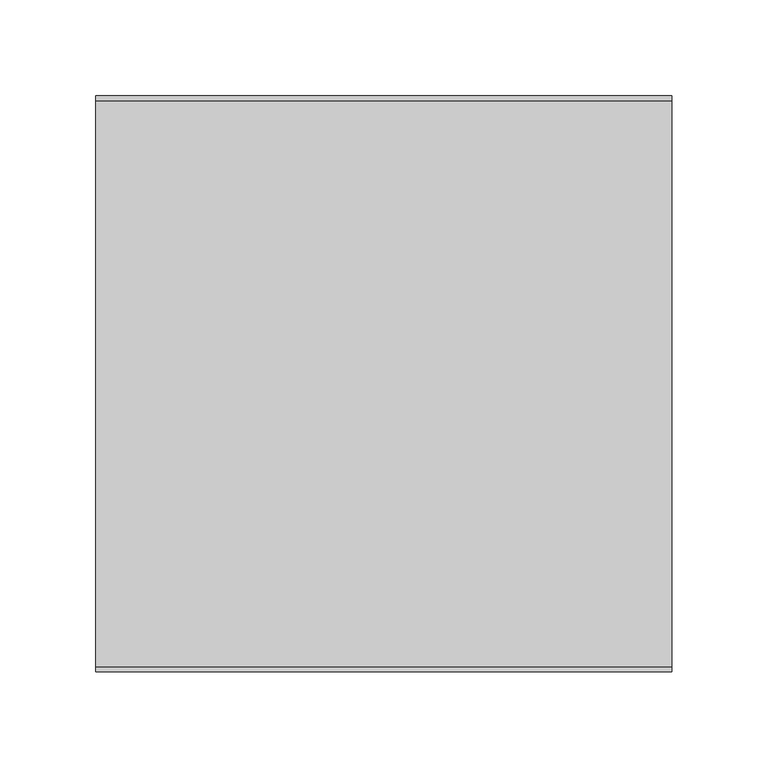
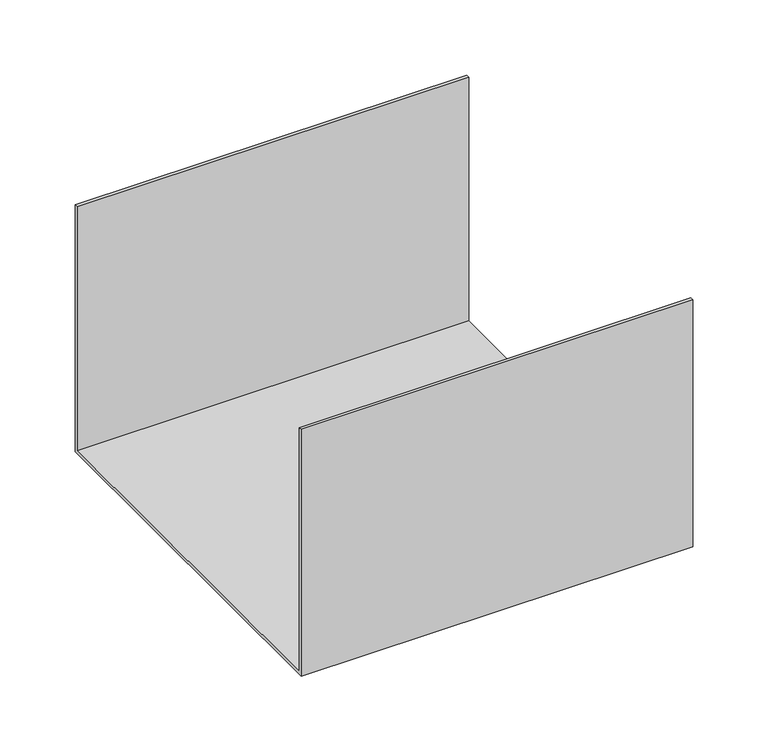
"""IFC4 building model written with IfcOpenShell, lengths in millimetres: cable carrier fitting geometry, BAKS_Reduction-symmetrical_RKZ : RKZCH200."""

from ifc_helpers import new_model, si_unit, frame, origin, place, context, project, spatial, polyline, outline, extrude, source, transform, mapped, element, save


def cable_carrier_fitting_106d96d6(model_context):
    return source(origin(), model_context, "Body", "SweptSolid", [
        extrude(outline(polyline([(-150.0, -100.0), (-150.0, 100.0), (-147.46, 100.0), (-147.46, -97.46), (147.46, -97.46), (147.46, 100.0), (150.0, 100.0), (150.0, -100.0), (-150.0, -100.0)])), frame((0.0, 0.0, 0.0), z_axis=(1.0, 0.0, 0.0), x_axis=(0.0, 1.0, 0.0)), (0.0, 0.0, 1.0), 300.0),
    ])


if __name__ == "__main__":
    model = new_model("IFC4")
    model_context = context("Model", 3, world=origin())
    ifc_project = project(units=[si_unit("LENGTHUNIT", "METRE", prefix="MILLI")], contexts=[model_context])
    site = spatial("IfcSite", under=ifc_project)
    building = spatial("IfcBuilding", under=site)
    placement = place(None, origin())
    cable_carrier_fitting_shape = cable_carrier_fitting_106d96d6(model_context)
    element("IfcCableCarrierFitting", 1, ObjectType="BAKS_Reduction-symmetrical_RKZ : RKZCH200", at=placement, inside=building, context=model_context, shape_type="MappedRepresentation", body=[
        mapped(cable_carrier_fitting_shape, transform((0.0, 0.0, 0.0), x_axis=(1.0, 0.0, 0.0), y_axis=(0.0, 1.0, 0.0), z_axis=(0.0, 0.0, 1.0))),
    ])
    save(model, "model.ifc")
